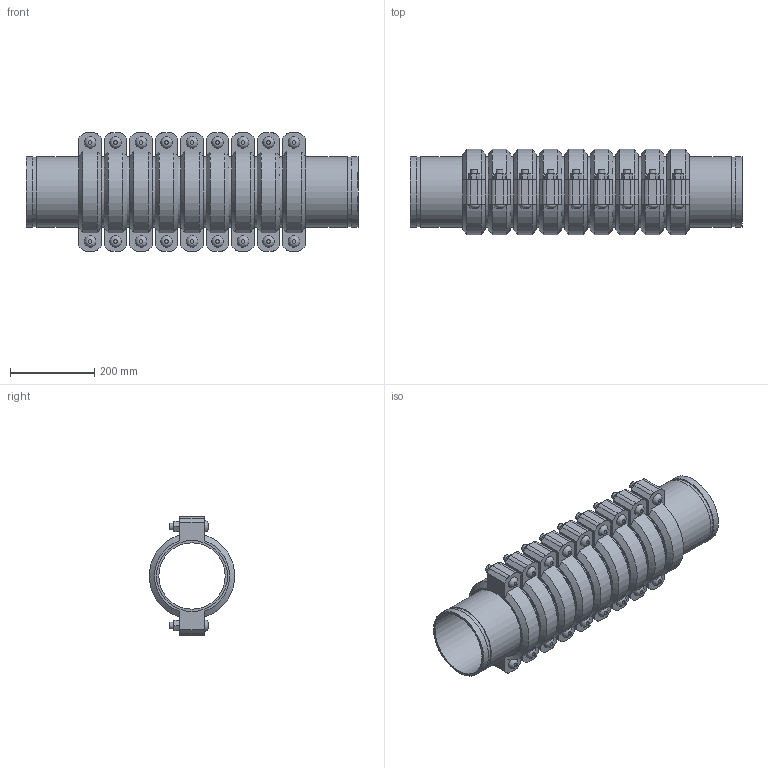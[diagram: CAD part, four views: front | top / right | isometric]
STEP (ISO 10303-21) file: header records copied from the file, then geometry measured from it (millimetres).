
FILE_DESCRIPTION(/* description */ ('VIC SS EXPANSION JOINT 9 COUPLINGS COMPRESSED STYLE 155P (OGS) (POTABLE WATER) ','CAx-IF Rec.Pracs.---Representation and Presentation of Product Manufacturing Information (PMI)---4.0---2014-10-13'),/* implementation_level */ '2;1');
FILE_NAME(/* name */ 'C:\Users\kkamble\AppData\Roaming\Autodesk\ApplicationPlugins\Victaulic.Temp\A693\Victaulic_SS_Expansion Joint_Compressed_9 Couplings_Style 155P (OGS)-Potable Water_9 Coup_Comp_6 (150).stp',/* time_stamp */ '2021-07-16T17:18:43+06:00',/* author */ ('kkamble'),/* organization */ ('Victaulic'),/* preprocessor_version */ 'ST-DEVELOPER v17.2',/* originating_system */ 'Autodesk Inventor 2019',/* authorisation */ '');
FILE_SCHEMA (('AP242_MANAGED_MODEL_BASED_3D_ENGINEERING_MIM_LF { 1 0 10303 442 1 1 4 }'));
Length unit declared in the file: inch
Products named in the file (4): 155P-06.0; Nipple-06.0; Nipple-06.0_1; 075-06.0
Assembly tree (19 placements, depth 2):
  155P-06.0
    Nipple-06.0  x2
    Nipple-06.0_1  x8
    075-06.0  x9
Bounding box: 787.65 x 202.46 x 281.18 mm (x, y, z)
Volume: 8771486.1 mm3; surface area: 1894311 mm2
Topology: 19 solids, 37 shells, 597 faces, 1443 edges, 1014 vertices
Faces by surface type: plane 366, cylinder 177, cone 36, bspline 18
Full cylindrical faces by diameter (mm): 15.875 x36, 17.424 x18, 157.15 x10, 163.957 x20, 168.275 x39
Entity records: 2753 total; most frequent: CARTESIAN_POINT 489, DIRECTION 463, ORIENTED_EDGE 374, EDGE_CURVE 187, AXIS2_PLACEMENT_3D 186, VERTEX_POINT 134, EDGE_LOOP 101, LINE 91
